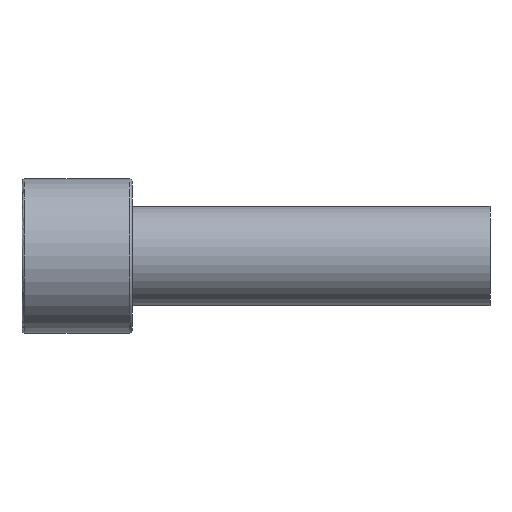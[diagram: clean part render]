
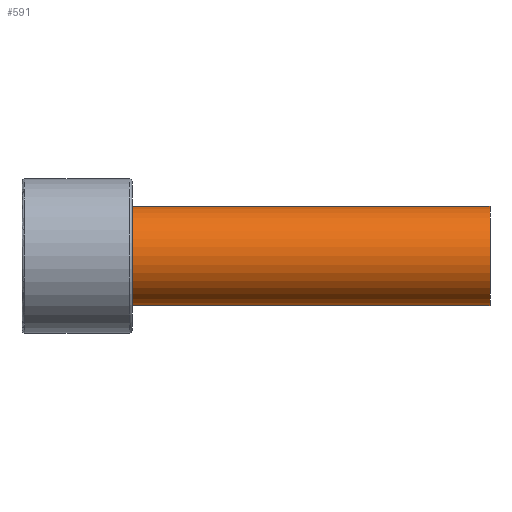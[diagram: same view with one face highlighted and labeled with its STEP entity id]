
A CAD part, front view. The second image highlights one B-rep face of the part: STEP entity #591.
In plain terms, the highlighted cylindrical face has radius 9 mm (diameter 18 mm), a partial arc.
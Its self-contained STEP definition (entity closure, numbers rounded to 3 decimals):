
#425=CARTESIAN_POINT('Vertex',(85.,0.,9.)) ;
#428=CARTESIAN_POINT('Axis2P3D Location',(85.,0.,0.)) ;
#432=CARTESIAN_POINT('Vertex',(85.,-9.,0.)) ;
#435=CARTESIAN_POINT('Axis2P3D Location',(85.,0.,0.)) ;
#439=CARTESIAN_POINT('Vertex',(85.,0.,-9.)) ;
#531=CARTESIAN_POINT('Line Origine',(85.,0.,9.)) ;
#535=CARTESIAN_POINT('Vertex',(20.,0.,9.)) ;
#538=CARTESIAN_POINT('Line Origine',(85.,0.,-9.)) ;
#542=CARTESIAN_POINT('Vertex',(20.,0.,-9.)) ;
#566=CARTESIAN_POINT('Axis2P3D Location',(85.,0.,0.)) ;
#571=CARTESIAN_POINT('Axis2P3D Location',(20.,0.,0.)) ;
#575=CARTESIAN_POINT('Vertex',(20.,-9.,0.)) ;
#578=CARTESIAN_POINT('Axis2P3D Location',(20.,0.,0.)) ;
#429=DIRECTION('Axis2P3D Direction',(1.,0.,-0.)) ;
#436=DIRECTION('Axis2P3D Direction',(1.,0.,-0.)) ;
#532=DIRECTION('Vector Direction',(-1.,0.,0.)) ;
#539=DIRECTION('Vector Direction',(-1.,0.,0.)) ;
#567=DIRECTION('Axis2P3D Direction',(-1.,-0.,-0.)) ;
#568=DIRECTION('Axis2P3D XDirection',(0.,0.,-1.)) ;
#572=DIRECTION('Axis2P3D Direction',(-1.,-0.,-0.)) ;
#579=DIRECTION('Axis2P3D Direction',(-1.,-0.,-0.)) ;
#430=AXIS2_PLACEMENT_3D('Circle Axis2P3D',#428,#429,$) ;
#437=AXIS2_PLACEMENT_3D('Circle Axis2P3D',#435,#436,$) ;
#569=AXIS2_PLACEMENT_3D('Cylinder Axis2P3D',#566,#567,#568) ;
#573=AXIS2_PLACEMENT_3D('Circle Axis2P3D',#571,#572,$) ;
#580=AXIS2_PLACEMENT_3D('Circle Axis2P3D',#578,#579,$) ;
#584=ORIENTED_EDGE('',*,*,#544,.T.) ;
#585=ORIENTED_EDGE('',*,*,#441,.F.) ;
#586=ORIENTED_EDGE('',*,*,#434,.F.) ;
#587=ORIENTED_EDGE('',*,*,#537,.T.) ;
#588=ORIENTED_EDGE('',*,*,#577,.T.) ;
#589=ORIENTED_EDGE('',*,*,#582,.T.) ;
#533=VECTOR('Line Direction',#532,1.) ;
#540=VECTOR('Line Direction',#539,1.) ;
#591=ADVANCED_FACE('367-18X85',(#590),#570,.T.) ;
#431=CIRCLE('generated circle',#430,9.) ;
#438=CIRCLE('generated circle',#437,9.) ;
#574=CIRCLE('generated circle',#573,9.) ;
#581=CIRCLE('generated circle',#580,9.) ;
#570=CYLINDRICAL_SURFACE('generated cylinder',#569,9.) ;
#434=EDGE_CURVE('',#426,#433,#431,.T.) ;
#441=EDGE_CURVE('',#433,#440,#438,.T.) ;
#537=EDGE_CURVE('',#426,#536,#534,.T.) ;
#544=EDGE_CURVE('',#543,#440,#541,.F.) ;
#577=EDGE_CURVE('',#536,#576,#574,.F.) ;
#582=EDGE_CURVE('',#576,#543,#581,.F.) ;
#583=EDGE_LOOP('',(#584,#585,#586,#587,#588,#589)) ;
#590=FACE_OUTER_BOUND('',#583,.T.) ;
#534=LINE('Line',#531,#533) ;
#541=LINE('Line',#538,#540) ;
#426=VERTEX_POINT('',#425) ;
#433=VERTEX_POINT('',#432) ;
#440=VERTEX_POINT('',#439) ;
#536=VERTEX_POINT('',#535) ;
#543=VERTEX_POINT('',#542) ;
#576=VERTEX_POINT('',#575) ;
